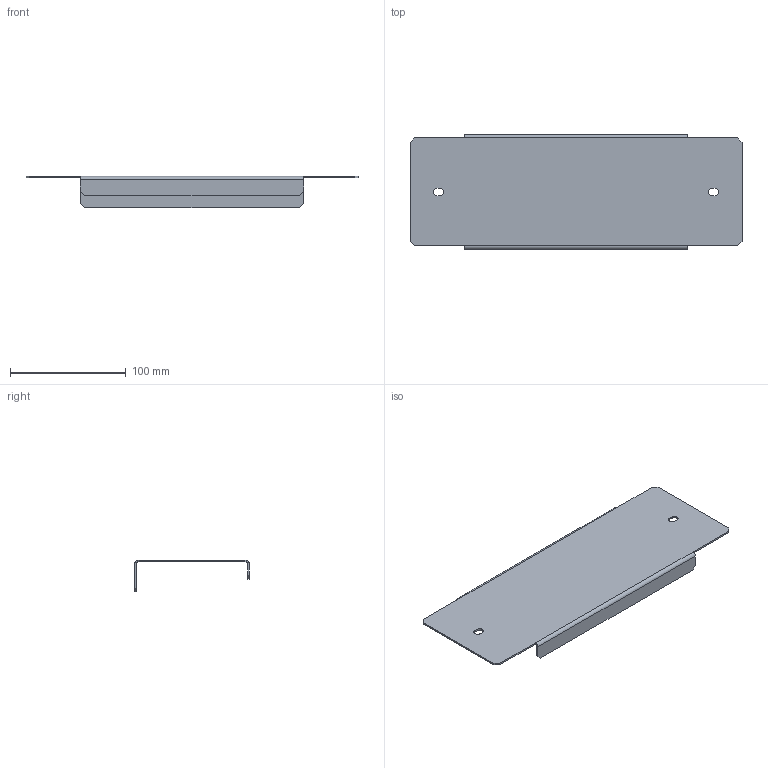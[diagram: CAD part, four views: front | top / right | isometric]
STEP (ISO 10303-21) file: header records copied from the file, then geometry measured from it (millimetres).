
FILE_DESCRIPTION(('STEP AP203'), '1');
FILE_NAME('ZA 40 v.2 Ïàíåëü öîêîëÿ', '2018-07-18T12:06:54', (' '), (''), 'ASCON STEP Converter 1.3', 'ASCON Math Kernel', '');
FILE_SCHEMA(('CONFIG_CONTROL_DESIGN'));
Length unit declared in the file: millimetre
Products named in the file (1): ZA 40
Bounding box: 286.5 x 99 x 27 mm (x, y, z)
Volume: 49144.4 mm3; surface area: 71442 mm2
Topology: 1 solids, 1 shells, 42 faces, 104 edges, 64 vertices
Faces by surface type: plane 34, cylinder 8
Entity records: 1604 total; most frequent: CARTESIAN_POINT 211, ORIENTED_EDGE 208, DIRECTION 206, EDGE_CURVE 104, LINE 88, VECTOR 88, VERTEX_POINT 64, AXIS2_PLACEMENT_3D 59
